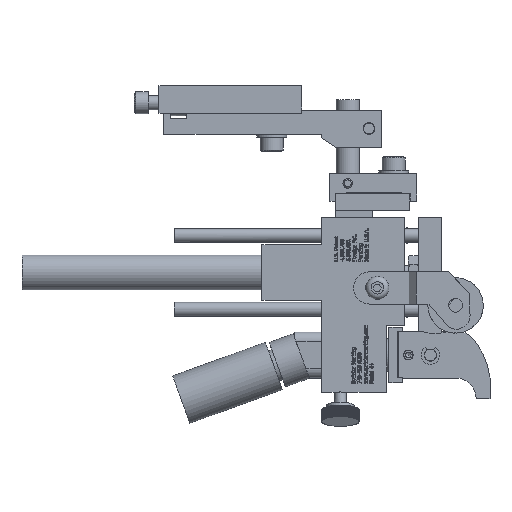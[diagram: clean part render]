
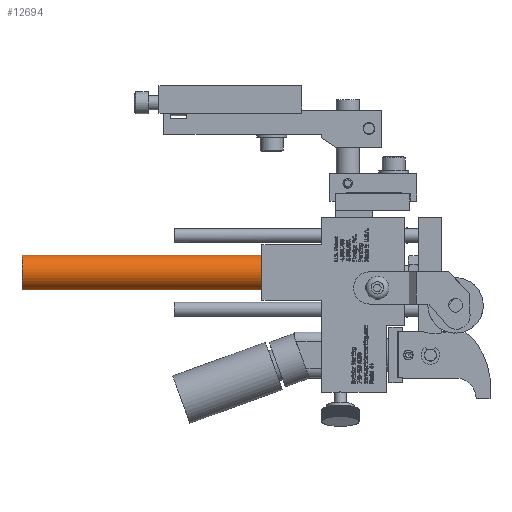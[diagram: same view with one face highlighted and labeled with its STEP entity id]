
A CAD part, top view. The second image highlights one B-rep face of the part: STEP entity #12694.
In plain terms, the highlighted cylindrical face has radius 5.969 mm (diameter 11.938 mm), a full revolution.
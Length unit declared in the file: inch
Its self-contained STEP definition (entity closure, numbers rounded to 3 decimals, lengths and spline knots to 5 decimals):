
#12667=CARTESIAN_POINT('',(-1.4995,0.8125,0.375));
#12668=DIRECTION('',(-1.0,0.,0.));
#12669=DIRECTION('',(0.0,0.0,-1.0));
#12670=AXIS2_PLACEMENT_3D('',#12667,#12668,#12669);
#12671=CYLINDRICAL_SURFACE('',#12670,0.235);
#12672=CARTESIAN_POINT('',(-4.7495,0.8125,0.61));
#12673=VERTEX_POINT('',#12672);
#12674=CARTESIAN_POINT('',(-4.7495,0.8125,0.375));
#12675=DIRECTION('',(1.0,0.0,0.0));
#12676=DIRECTION('',(0.0,0.0,-1.0));
#12677=AXIS2_PLACEMENT_3D('',#12674,#12675,#12676);
#12678=CIRCLE('',#12677,0.235);
#12679=EDGE_CURVE('',#12673,#12673,#12678,.T.);
#12680=ORIENTED_EDGE('',*,*,#12679,.T.);
#12681=EDGE_LOOP('',(#12680));
#12682=FACE_OUTER_BOUND('',#12681,.T.);
#12683=CARTESIAN_POINT('',(-1.4995,0.8125,0.61));
#12684=VERTEX_POINT('',#12683);
#12685=CARTESIAN_POINT('',(-1.4995,0.8125,0.375));
#12686=DIRECTION('',(1.0,0.0,0.0));
#12687=DIRECTION('',(0.0,0.0,-1.0));
#12688=AXIS2_PLACEMENT_3D('',#12685,#12686,#12687);
#12689=CIRCLE('',#12688,0.235);
#12690=EDGE_CURVE('',#12684,#12684,#12689,.T.);
#12691=ORIENTED_EDGE('',*,*,#12690,.F.);
#12692=EDGE_LOOP('',(#12691));
#12693=FACE_BOUND('',#12692,.T.);
#12694=ADVANCED_FACE('',(#12682,#12693),#12671,.T.);
